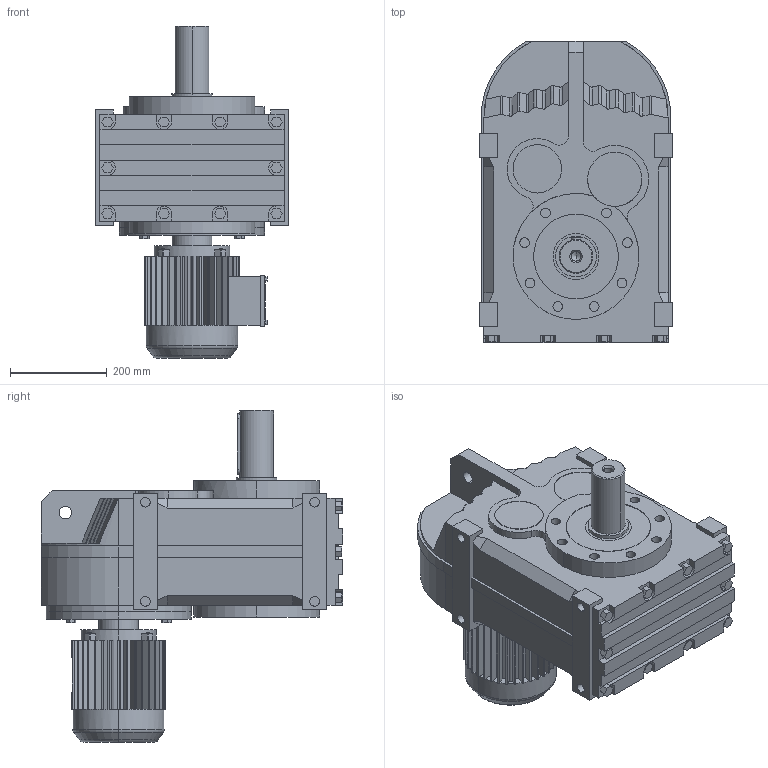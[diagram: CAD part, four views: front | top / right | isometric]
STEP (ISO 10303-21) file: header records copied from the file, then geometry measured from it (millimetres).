
FILE_DESCRIPTION(('Open CASCADE Model'),'2;1');
FILE_NAME('Open CASCADE Shape Model','2021-07-20T10:01:51',('Author'),( 'Open CASCADE'),'Open CASCADE STEP processor 6.3','Open CASCADE 6.3' ,'Unknown');
FILE_SCHEMA(('AUTOMOTIVE_DESIGN_CC2 { 1 2 10303 214 -1 1 5 4 }'));
Length unit declared in the file: millimetre
Products named in the file (4): 1_F97-Y90S; FA27‵157_97.step; 萇儂_300_Y90S.step; す瑩妗陑粣F_97.step
Assembly tree (3 placements, depth 2):
  1_F97-Y90S
    FA27‵157_97.step
    萇儂_300_Y90S.step
    す瑩妗陑粣F_97.step
Bounding box: 400 x 623 x 686 mm (x, y, z)
Volume: 59848706.6 mm3; surface area: 1775249.7 mm2
Topology: 3 solids, 3 shells, 792 faces, 2086 edges, 1354 vertices
Faces by surface type: plane 566, cylinder 198, bspline 16, cone 8, torus 4
Entity records: 53282 total; most frequent: CARTESIAN_POINT 13314, DIRECTION 6985, ORIENTED_EDGE 4168, PCURVE 4168, DEFINITIONAL_REPRESENTATION 4168, LINE 3929, VECTOR 3929, EDGE_CURVE 2084
